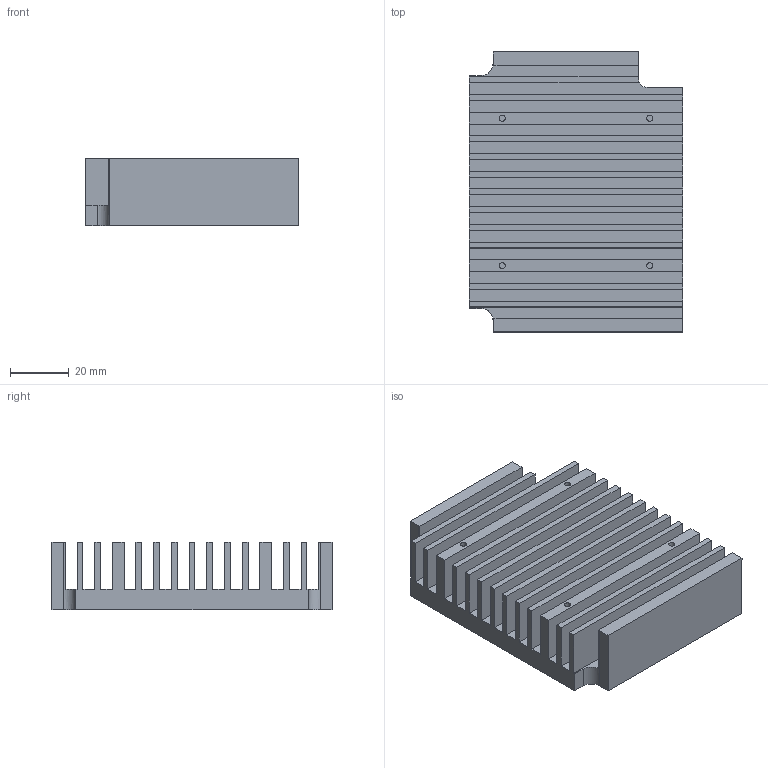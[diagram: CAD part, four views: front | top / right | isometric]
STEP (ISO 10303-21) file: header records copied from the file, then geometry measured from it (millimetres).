
FILE_DESCRIPTION(/* description */ (''),/* implementation_level */ '2;1');
FILE_NAME(/* name */ 'C:/Attractec/Projects/SolidRun/Layerscape heatsink/Design/Production files/heatsink rev v9 20-dec-2020.step',/* time_stamp */ '2020-12-20T22:29:09+02:00',/* author */ (''),/* organization */ (''),/* preprocessor_version */ 'ST-DEVELOPER v18.1',/* originating_system */ 'Autodesk Translation Framework v9.7.1.1290',/* authorisation */ '');
FILE_SCHEMA (('AUTOMOTIVE_DESIGN { 1 0 10303 214 3 1 1 }'));
Length unit declared in the file: millimetre
Products named in the file (1): Heatsink for LX2160A COM
Bounding box: 72.24 x 95 x 23 mm (x, y, z)
Volume: 86568.2 mm3; surface area: 50567 mm2
Topology: 1 solids, 1 shells, 101 faces, 273 edges, 182 vertices
Faces by surface type: plane 84, cylinder 17
Full cylindrical faces by diameter (mm): 2.05 x6
Entity records: 3177 total; most frequent: CARTESIAN_POINT 557, ORIENTED_EDGE 546, DIRECTION 514, EDGE_CURVE 273, LINE 236, VECTOR 236, VERTEX_POINT 182, AXIS2_PLACEMENT_3D 139
